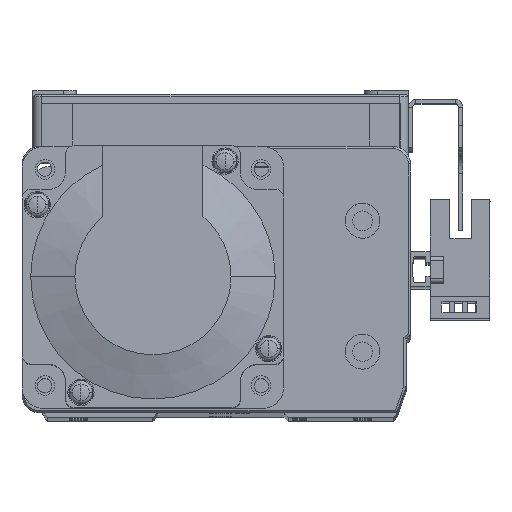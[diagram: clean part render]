
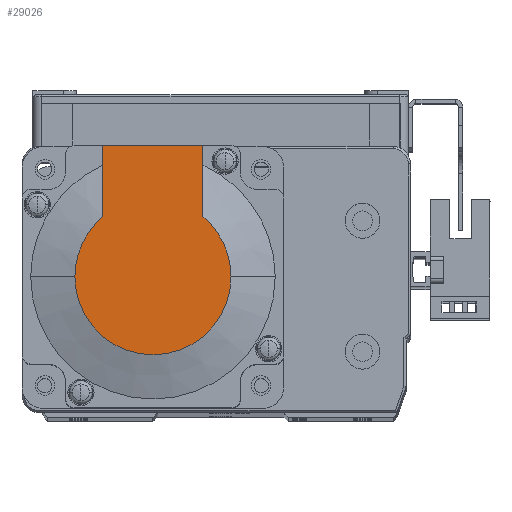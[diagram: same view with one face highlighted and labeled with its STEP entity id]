
A CAD part, top view. The second image highlights one B-rep face of the part: STEP entity #29026.
In plain terms, the highlighted planar face has unit normal (0, 0, 1) as drawn and (-1, 0, 0) by its records, which use the part's own axes.
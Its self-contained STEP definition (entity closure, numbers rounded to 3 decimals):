
#476 = VERTEX_POINT ( 'NONE', #12444 ) ;
#500 = VERTEX_POINT ( 'NONE', #12515 ) ;
#1114 = EDGE_LOOP ( 'NONE', ( #2828, #2815, #2821, #2823, #2799, #2825 ) ) ;
#2799 = ORIENTED_EDGE ( 'NONE', *, *, #45841, .F. ) ;
#2815 = ORIENTED_EDGE ( 'NONE', *, *, #45753, .T. ) ;
#2821 = ORIENTED_EDGE ( 'NONE', *, *, #45562, .T. ) ;
#2823 = ORIENTED_EDGE ( 'NONE', *, *, #45553, .T. ) ;
#2825 = ORIENTED_EDGE ( 'NONE', *, *, #45840, .F. ) ;
#2828 = ORIENTED_EDGE ( 'NONE', *, *, #45878, .T. ) ;
#5792 = FACE_OUTER_BOUND ( 'NONE', #1114, .T. ) ;
#6643 = AXIS2_PLACEMENT_3D ( 'NONE', #8899, #8876, #8873 ) ;
#8873 = DIRECTION ( 'NONE',  ( 0., 0., 1. ) ) ;
#8876 = DIRECTION ( 'NONE',  ( -1., 0., 0. ) ) ;
#8880 = PLANE ( 'NONE',  #6643 ) ;
#8899 = CARTESIAN_POINT ( 'NONE',  ( -99., -8.941, 0. ) ) ;
#12444 = CARTESIAN_POINT ( 'NONE',  ( -99., 0., 17.881 ) ) ;
#12515 = CARTESIAN_POINT ( 'NONE',  ( -99., 13.735, 11.45 ) ) ;
#22039 = AXIS2_PLACEMENT_3D ( 'NONE', #28381, #28382, #28346 ) ;
#22101 = AXIS2_PLACEMENT_3D ( 'NONE', #28358, #28375, #28377 ) ;
#22144 = AXIS2_PLACEMENT_3D ( 'NONE', #33431, #33370, #33417 ) ;
#25894 = CARTESIAN_POINT ( 'NONE',  ( -99., 13.735, -11.45 ) ) ;
#25977 = CARTESIAN_POINT ( 'NONE',  ( -99., 30., 11.45 ) ) ;
#26029 = CARTESIAN_POINT ( 'NONE',  ( -99., 30., -11.45 ) ) ;
#26774 = CARTESIAN_POINT ( 'NONE',  ( -99., 0., -17.881 ) ) ;
#28346 = DIRECTION ( 'NONE',  ( 0., 0., -1. ) ) ;
#28358 = CARTESIAN_POINT ( 'NONE',  ( -99., 0., 0. ) ) ;
#28375 = DIRECTION ( 'NONE',  ( -1., 0., 0. ) ) ;
#28377 = DIRECTION ( 'NONE',  ( 0., 0., -1. ) ) ;
#28381 = CARTESIAN_POINT ( 'NONE',  ( -99., 0., 0. ) ) ;
#28382 = DIRECTION ( 'NONE',  ( -1., 0., 0. ) ) ;
#29026 = ADVANCED_FACE ( 'NONE', ( #5792 ), #8880, .T. ) ;
#29853 = CIRCLE ( 'NONE', #22101, 17.881 ) ;
#29902 = CIRCLE ( 'NONE', #22039, 17.881 ) ;
#30371 = CIRCLE ( 'NONE', #22144, 17.881 ) ;
#30627 = LINE ( 'NONE', #33871, #30633 ) ;
#30633 = VECTOR ( 'NONE', #33875, 1000. ) ;
#30635 = VECTOR ( 'NONE', #33923, 1000. ) ;
#30693 = LINE ( 'NONE', #33872, #30635 ) ;
#30807 = VECTOR ( 'NONE', #34050, 1000. ) ;
#30831 = LINE ( 'NONE', #34101, #30807 ) ;
#33370 = DIRECTION ( 'NONE',  ( -1., 0., 0. ) ) ;
#33417 = DIRECTION ( 'NONE',  ( 0., 0., -1. ) ) ;
#33431 = CARTESIAN_POINT ( 'NONE',  ( -99., 0., 0. ) ) ;
#33871 = CARTESIAN_POINT ( 'NONE',  ( -99., 30., 25. ) ) ;
#33872 = CARTESIAN_POINT ( 'NONE',  ( -99., 0., 11.45 ) ) ;
#33875 = DIRECTION ( 'NONE',  ( 0., 0., 1. ) ) ;
#33923 = DIRECTION ( 'NONE',  ( 0., -1., 0. ) ) ;
#34050 = DIRECTION ( 'NONE',  ( 0., -1., 0. ) ) ;
#34101 = CARTESIAN_POINT ( 'NONE',  ( -99., -8.941, -11.45 ) ) ;
#44105 = VERTEX_POINT ( 'NONE', #25894 ) ;
#44151 = VERTEX_POINT ( 'NONE', #25977 ) ;
#44238 = VERTEX_POINT ( 'NONE', #26029 ) ;
#44965 = VERTEX_POINT ( 'NONE', #26774 ) ;
#45553 = EDGE_CURVE ( 'NONE', #476, #500, #29853, .T. ) ;
#45562 = EDGE_CURVE ( 'NONE', #44965, #476, #29902, .T. ) ;
#45753 = EDGE_CURVE ( 'NONE', #44105, #44965, #30371, .T. ) ;
#45840 = EDGE_CURVE ( 'NONE', #44238, #44151, #30627, .T. ) ;
#45841 = EDGE_CURVE ( 'NONE', #44151, #500, #30693, .T. ) ;
#45878 = EDGE_CURVE ( 'NONE', #44238, #44105, #30831, .T. ) ;
